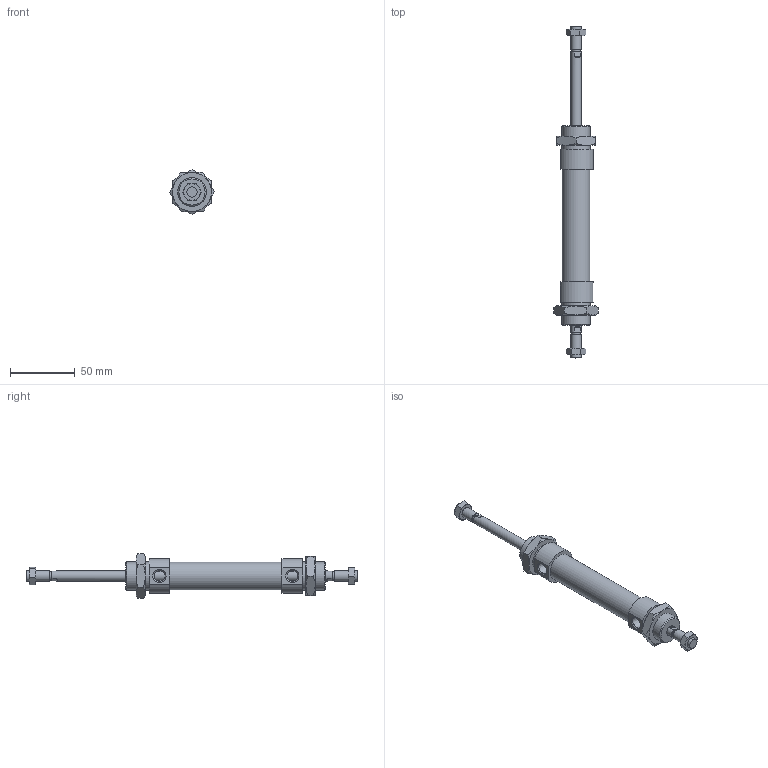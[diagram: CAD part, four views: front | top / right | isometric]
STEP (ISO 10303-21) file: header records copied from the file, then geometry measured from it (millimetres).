
FILE_DESCRIPTION((''),'2;1');
FILE_NAME('I:\Area Tecnica\Disegni\VARIE-3D\Componenti\1280\1282_##_####_#\1282_20_0050.iam.stp','2009-06-03T15:25:11',(''),(''),'Autodesk Inventor 2010','Autodesk Inventor 2010','');
FILE_SCHEMA(('AUTOMOTIVE_DESIGN { 1 0 10303 214 1 1 1 1 }'));
Length unit declared in the file: millimetre
Products named in the file (5): 1282_20_0050; C1282_20_50; S1282_20_50; 1200_20_05; 1200_20_06
Assembly tree (6 placements, depth 2):
  1282_20_0050
    C1282_20_50
    S1282_20_50
    1200_20_05  x2
    1200_20_06  x2
Bounding box: 34.64 x 256 x 34.64 mm (x, y, z)
Volume: 72831.2 mm3; surface area: 27890.2 mm2
Topology: 6 solids, 6 shells, 141 faces, 309 edges, 184 vertices
Faces by surface type: plane 60, cone 52, bspline 18, cylinder 11
Full cylindrical faces by diameter (mm): 6.5 x2, 8 x4, 21.2 x1, 22 x2
Entity records: 2813 total; most frequent: CARTESIAN_POINT 727, DIRECTION 386, ORIENTED_EDGE 352, EDGE_CURVE 176, AXIS2_PLACEMENT_3D 169, EDGE_LOOP 132, VERTEX_POINT 116, STYLED_ITEM 99
